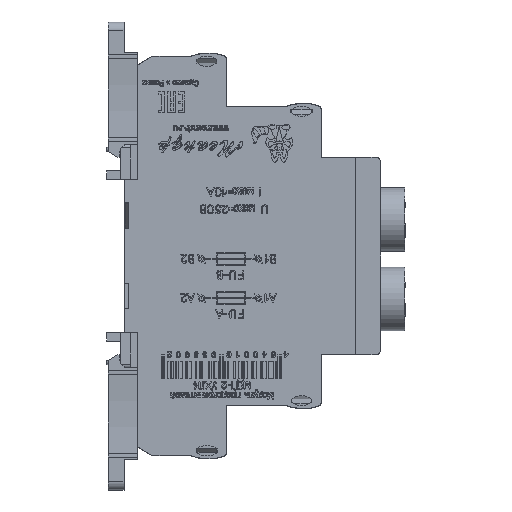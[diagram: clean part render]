
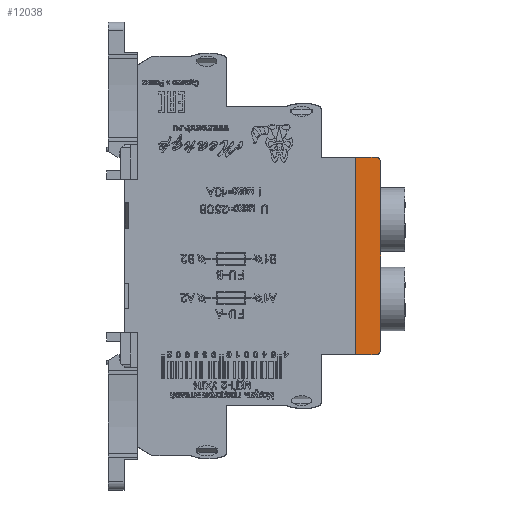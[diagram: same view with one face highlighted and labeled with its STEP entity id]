
A CAD part, front view. The second image highlights one B-rep face of the part: STEP entity #12038.
In plain terms, the highlighted planar face has unit normal (0, -1, 0) as drawn and (-1, 0, 0) by its records, which use the part's own axes.
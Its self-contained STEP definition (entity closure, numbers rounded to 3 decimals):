
#12038=ADVANCED_FACE('',(#80721),#80723,.T.);
#80721=FACE_BOUND('',#80722,.T.);
#80722=EDGE_LOOP('',(#134539,#134540,#134541,#134542,#134543,#134544));
#80723=PLANE('',#80724);
#80724=AXIS2_PLACEMENT_3D('',#80725,#80726,#80727);
#80725=CARTESIAN_POINT('',(-8.875,-22.6,1.5));
#80726=DIRECTION('',(-1.,0.,0.));
#80727=DIRECTION('',(0.,-1.,0.));
#134539=ORIENTED_EDGE('',*,*,#183294,.T.);
#134540=ORIENTED_EDGE('',*,*,#183298,.T.);
#134541=ORIENTED_EDGE('',*,*,#183299,.F.);
#134542=ORIENTED_EDGE('',*,*,#183300,.T.);
#134543=ORIENTED_EDGE('',*,*,#183283,.F.);
#134544=ORIENTED_EDGE('',*,*,#183282,.T.);
#183282=EDGE_CURVE('',#208126,#208139,#208141,.T.);
#183283=EDGE_CURVE('',#208126,#208142,#208143,.T.);
#183294=EDGE_CURVE('',#208139,#208159,#208161,.T.);
#183298=EDGE_CURVE('',#208159,#208167,#208168,.T.);
#183299=EDGE_CURVE('',#208169,#208167,#208170,.T.);
#183300=EDGE_CURVE('',#208169,#208142,#208171,.T.);
#208126=VERTEX_POINT('',#252765);
#208139=VERTEX_POINT('',#252790);
#208141=LINE('',#252794,#252795);
#208142=VERTEX_POINT('',#252797);
#208143=LINE('',#252798,#252799);
#208159=VERTEX_POINT('',#252836);
#208161=LINE('',#252840,#252841);
#208167=VERTEX_POINT('',#252854);
#208168=CIRCLE('',#252855,1.);
#208169=VERTEX_POINT('',#252859);
#208170=LINE('',#252860,#252861);
#208171=CIRCLE('',#252863,1.);
#252765=CARTESIAN_POINT('',(-8.875,-22.6,5.75));
#252790=CARTESIAN_POINT('',(-8.875,22.6,5.75));
#252794=CARTESIAN_POINT('',(-8.875,-22.6,5.75));
#252795=VECTOR('',#252796,1.);
#252796=DIRECTION('',(0.,1.,0.));
#252797=CARTESIAN_POINT('',(-8.875,-22.6,1.));
#252798=CARTESIAN_POINT('',(-8.875,-22.6,5.75));
#252799=VECTOR('',#252800,1.);
#252800=DIRECTION('',(0.,0.,-1.));
#252836=CARTESIAN_POINT('',(-8.875,22.6,1.));
#252840=CARTESIAN_POINT('',(-8.875,22.6,5.75));
#252841=VECTOR('',#252842,1.);
#252842=DIRECTION('',(0.,0.,-1.));
#252854=CARTESIAN_POINT('',(-8.875,21.6,0.));
#252855=AXIS2_PLACEMENT_3D('',#252856,#252857,#252858);
#252856=CARTESIAN_POINT('',(-8.875,21.6,1.));
#252857=DIRECTION('',(-1.,0.,0.));
#252858=DIRECTION('',(0.,1.,0.));
#252859=CARTESIAN_POINT('',(-8.875,-21.6,0.));
#252860=CARTESIAN_POINT('',(-8.875,-21.6,0.));
#252861=VECTOR('',#252862,1.);
#252862=DIRECTION('',(0.,1.,0.));
#252863=AXIS2_PLACEMENT_3D('',#252864,#252865,#252866);
#252864=CARTESIAN_POINT('',(-8.875,-21.6,1.));
#252865=DIRECTION('',(-1.,0.,0.));
#252866=DIRECTION('',(0.,0.,-1.));
